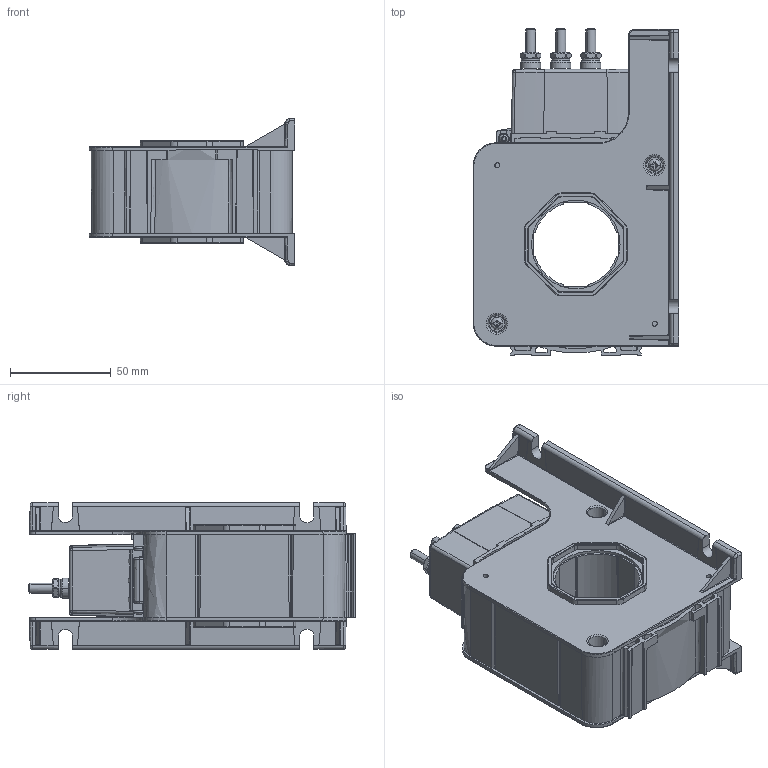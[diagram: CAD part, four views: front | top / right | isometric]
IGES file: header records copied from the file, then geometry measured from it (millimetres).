
Start section: Elysium IGES Interface
Global section: file name: C:\Documents and Settings\pmo\Desktop\LTC\LTC_1000_SF_SP4.igs; native system: SolidDesigner 16.00A  16-Aug-2008; preprocessor: CoCreate IGES_3D V2.2; author: Unknown; organization: Unknown; date: 20091009.093103; units: millimetre
Bounding box: 102.2 x 162.2 x 73 mm (x, y, z)
Volume: 195084.4 mm3; surface area: 167840.7 mm2
Topology: 2 solids, 15 shells, 3706 faces, 10010 edges, 6448 vertices
Faces by surface type: bspline 3706
